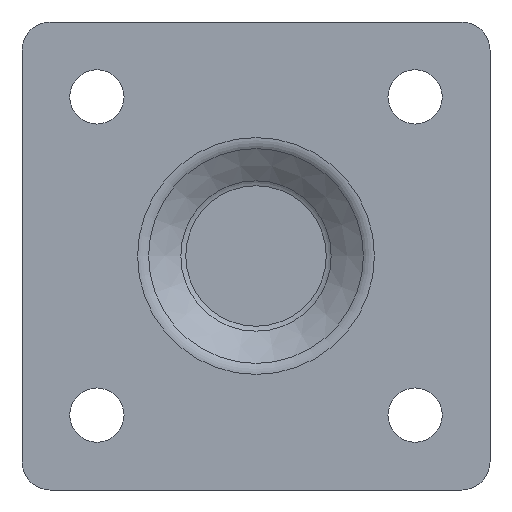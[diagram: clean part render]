
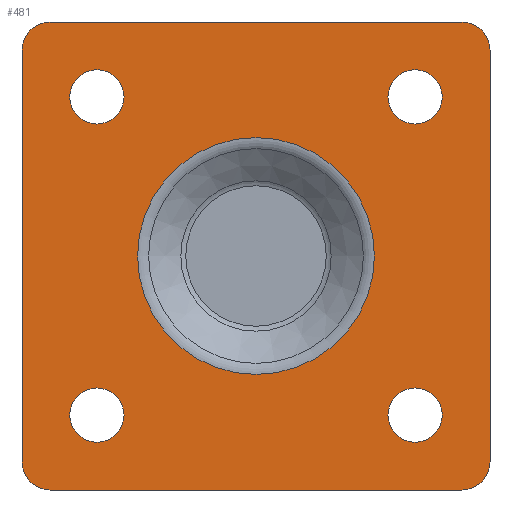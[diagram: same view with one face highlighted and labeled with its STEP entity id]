
A CAD part, front view. The second image highlights one B-rep face of the part: STEP entity #481.
In plain terms, the highlighted planar face has unit normal (0, -1, 0).
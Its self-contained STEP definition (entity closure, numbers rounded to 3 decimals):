
#33=LINE('',#790,#49);
#34=LINE('',#794,#50);
#35=LINE('',#798,#51);
#36=LINE('',#801,#52);
#49=VECTOR('',#641,44.);
#50=VECTOR('',#644,44.);
#51=VECTOR('',#647,44.);
#52=VECTOR('',#650,44.);
#65=PLANE('',#536);
#97=FACE_BOUND('',#175,.T.);
#98=FACE_BOUND('',#176,.T.);
#99=FACE_BOUND('',#177,.T.);
#100=FACE_BOUND('',#178,.T.);
#101=FACE_BOUND('',#179,.T.);
#129=FACE_OUTER_BOUND('',#174,.T.);
#174=EDGE_LOOP('',(#372,#373,#374,#375,#376,#377,#378,#379));
#175=EDGE_LOOP('',(#380));
#176=EDGE_LOOP('',(#381));
#177=EDGE_LOOP('',(#382));
#178=EDGE_LOOP('',(#383));
#179=EDGE_LOOP('',(#384));
#222=CIRCLE('',#515,2.9);
#225=CIRCLE('',#520,2.9);
#228=CIRCLE('',#525,2.9);
#231=CIRCLE('',#530,2.9);
#233=CIRCLE('',#533,12.655);
#235=CIRCLE('',#537,3.);
#236=CIRCLE('',#538,3.);
#237=CIRCLE('',#539,3.);
#238=CIRCLE('',#540,3.);
#256=VERTEX_POINT('',#751);
#259=VERTEX_POINT('',#759);
#262=VERTEX_POINT('',#767);
#265=VERTEX_POINT('',#775);
#267=VERTEX_POINT('',#780);
#269=VERTEX_POINT('',#786);
#270=VERTEX_POINT('',#787);
#271=VERTEX_POINT('',#789);
#272=VERTEX_POINT('',#791);
#273=VERTEX_POINT('',#793);
#274=VERTEX_POINT('',#795);
#275=VERTEX_POINT('',#797);
#276=VERTEX_POINT('',#799);
#300=EDGE_CURVE('',#256,#256,#222,.T.);
#303=EDGE_CURVE('',#259,#259,#225,.T.);
#306=EDGE_CURVE('',#262,#262,#228,.T.);
#309=EDGE_CURVE('',#265,#265,#231,.T.);
#311=EDGE_CURVE('',#267,#267,#233,.T.);
#313=EDGE_CURVE('',#269,#270,#235,.T.);
#314=EDGE_CURVE('',#271,#269,#33,.T.);
#315=EDGE_CURVE('',#272,#271,#236,.T.);
#316=EDGE_CURVE('',#272,#273,#34,.T.);
#317=EDGE_CURVE('',#274,#273,#237,.T.);
#318=EDGE_CURVE('',#275,#274,#35,.T.);
#319=EDGE_CURVE('',#276,#275,#238,.T.);
#320=EDGE_CURVE('',#276,#270,#36,.T.);
#372=ORIENTED_EDGE('',*,*,#313,.F.);
#373=ORIENTED_EDGE('',*,*,#314,.F.);
#374=ORIENTED_EDGE('',*,*,#315,.F.);
#375=ORIENTED_EDGE('',*,*,#316,.T.);
#376=ORIENTED_EDGE('',*,*,#317,.F.);
#377=ORIENTED_EDGE('',*,*,#318,.F.);
#378=ORIENTED_EDGE('',*,*,#319,.F.);
#379=ORIENTED_EDGE('',*,*,#320,.T.);
#380=ORIENTED_EDGE('',*,*,#300,.T.);
#381=ORIENTED_EDGE('',*,*,#303,.T.);
#382=ORIENTED_EDGE('',*,*,#306,.T.);
#383=ORIENTED_EDGE('',*,*,#309,.T.);
#384=ORIENTED_EDGE('',*,*,#311,.F.);
#481=ADVANCED_FACE('',(#129,#97,#98,#99,#100,#101),#65,.T.);
#515=AXIS2_PLACEMENT_3D('',#752,#595,#596);
#520=AXIS2_PLACEMENT_3D('',#760,#605,#606);
#525=AXIS2_PLACEMENT_3D('',#768,#615,#616);
#530=AXIS2_PLACEMENT_3D('',#776,#625,#626);
#533=AXIS2_PLACEMENT_3D('',#781,#631,#632);
#536=AXIS2_PLACEMENT_3D('',#785,#637,#638);
#537=AXIS2_PLACEMENT_3D('',#788,#639,#640);
#538=AXIS2_PLACEMENT_3D('',#792,#642,#643);
#539=AXIS2_PLACEMENT_3D('',#796,#645,#646);
#540=AXIS2_PLACEMENT_3D('',#800,#648,#649);
#595=DIRECTION('center_axis',(0.,1.,0.));
#596=DIRECTION('ref_axis',(1.,0.,0.));
#605=DIRECTION('center_axis',(0.,1.,0.));
#606=DIRECTION('ref_axis',(1.,0.,0.));
#615=DIRECTION('center_axis',(0.,1.,0.));
#616=DIRECTION('ref_axis',(1.,0.,0.));
#625=DIRECTION('center_axis',(0.,1.,0.));
#626=DIRECTION('ref_axis',(1.,0.,0.));
#631=DIRECTION('center_axis',(0.,-1.,0.));
#632=DIRECTION('ref_axis',(-1.,0.,0.));
#637=DIRECTION('center_axis',(0.,-1.,0.));
#638=DIRECTION('ref_axis',(1.,0.,0.));
#639=DIRECTION('center_axis',(0.,1.,0.));
#640=DIRECTION('ref_axis',(-0.707,0.,-0.707));
#641=DIRECTION('',(-1.,0.,0.));
#642=DIRECTION('center_axis',(0.,1.,0.));
#643=DIRECTION('ref_axis',(0.707,0.,-0.707));
#644=DIRECTION('',(0.,0.,1.));
#645=DIRECTION('center_axis',(0.,1.,0.));
#646=DIRECTION('ref_axis',(0.707,0.,0.707));
#647=DIRECTION('',(1.,0.,0.));
#648=DIRECTION('center_axis',(0.,1.,0.));
#649=DIRECTION('ref_axis',(-0.707,0.,0.707));
#650=DIRECTION('',(0.,0.,-1.));
#751=CARTESIAN_POINT('',(5.1,0.,17.));
#752=CARTESIAN_POINT('Origin',(8.,0.,17.));
#759=CARTESIAN_POINT('',(5.1,0.,-17.));
#760=CARTESIAN_POINT('Origin',(8.,0.,-17.));
#767=CARTESIAN_POINT('',(39.1,0.,-17.));
#768=CARTESIAN_POINT('Origin',(42.,0.,-17.));
#775=CARTESIAN_POINT('',(39.1,0.,17.));
#776=CARTESIAN_POINT('Origin',(42.,0.,17.));
#780=CARTESIAN_POINT('',(37.655,0.,0.));
#781=CARTESIAN_POINT('Origin',(25.,0.,0.));
#785=CARTESIAN_POINT('Origin',(0.,0.,0.));
#786=CARTESIAN_POINT('',(3.,0.,-25.));
#787=CARTESIAN_POINT('',(0.,0.,-22.));
#788=CARTESIAN_POINT('Origin',(3.,0.,-22.));
#789=CARTESIAN_POINT('',(47.,0.,-25.));
#790=CARTESIAN_POINT('',(0.,0.,-25.));
#791=CARTESIAN_POINT('',(50.,0.,-22.));
#792=CARTESIAN_POINT('Origin',(47.,0.,-22.));
#793=CARTESIAN_POINT('',(50.,0.,22.));
#794=CARTESIAN_POINT('',(50.,0.,0.));
#795=CARTESIAN_POINT('',(47.,0.,25.));
#796=CARTESIAN_POINT('Origin',(47.,0.,22.));
#797=CARTESIAN_POINT('',(3.,0.,25.));
#798=CARTESIAN_POINT('',(0.,0.,25.));
#799=CARTESIAN_POINT('',(0.,0.,22.));
#800=CARTESIAN_POINT('Origin',(3.,0.,22.));
#801=CARTESIAN_POINT('',(0.,0.,0.));
